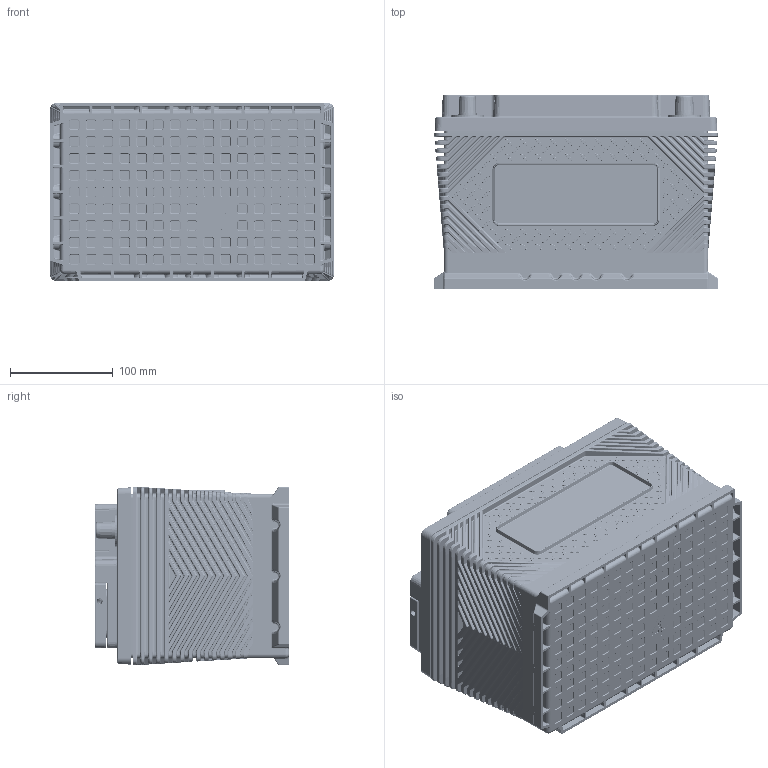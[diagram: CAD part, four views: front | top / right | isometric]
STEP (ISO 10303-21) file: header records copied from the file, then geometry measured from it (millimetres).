
FILE_DESCRIPTION (( 'STEP AP203' ), '1' );
FILE_NAME ('ODP-AGM48.STEP', '2024-02-26T20:08:13', ( '' ), ( '' ), 'SwSTEP 2.0', 'SolidWorks 2022', '' );
FILE_SCHEMA (( 'CONFIG_CONTROL_DESIGN' ));
Products named in the file (1): ODP-AGM48
Bounding box: 277.01 x 189.71 x 174 mm (x, y, z)
Volume: 1473269.2 mm3; surface area: 972510.8 mm2
Topology: 8 solids, 8 shells, 15491 faces, 36668 edges, 21224 vertices
Faces by surface type: cylinder 5781, plane 3191, torus 2738, bspline 2264, cone 975, sphere 542
Full cylindrical faces by diameter (mm): 14.935 x2, 17.983 x2, 18.059 x6, 18.542 x16, 21.031 x2, 21.336 x16, 25.4 x10
Entity records: 489195 total; most frequent: CARTESIAN_POINT 151449, ORIENTED_EDGE 72048, DIRECTION 71864, EDGE_CURVE 36024, AXIS2_PLACEMENT_3D 28594, VERTEX_POINT 21114, EDGE_LOOP 16090, FACE_OUTER_BOUND 15577
